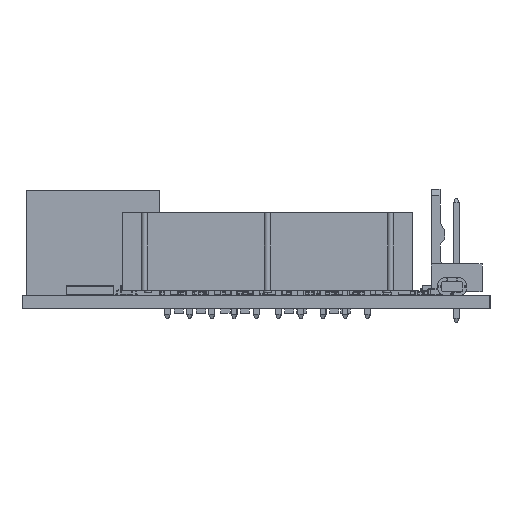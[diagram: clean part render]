
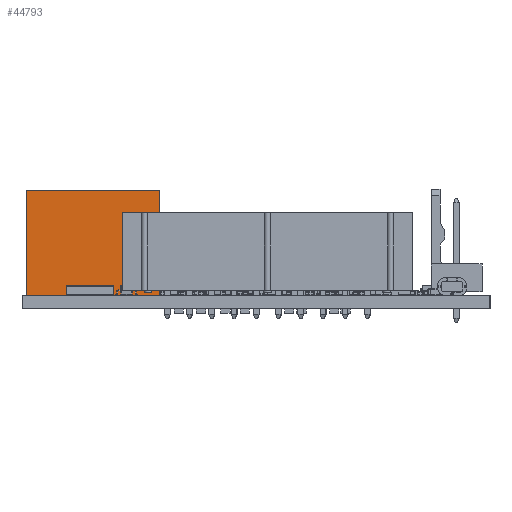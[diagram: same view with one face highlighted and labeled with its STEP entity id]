
A CAD part, left-side view. The second image highlights one B-rep face of the part: STEP entity #44793.
In plain terms, the highlighted planar face has unit normal (-1, 0, 0).
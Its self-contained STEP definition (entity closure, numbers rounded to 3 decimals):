
#44664 = EDGE_CURVE('',#44665,#44667,#44669,.T.);
#44665 = VERTEX_POINT('',#44666);
#44666 = CARTESIAN_POINT('',(-5.452,-7.6,0.));
#44667 = VERTEX_POINT('',#44668);
#44668 = CARTESIAN_POINT('',(-5.452,-7.6,12.));
#44669 = LINE('',#44670,#44671);
#44670 = CARTESIAN_POINT('',(-5.452,-7.6,0.));
#44671 = VECTOR('',#44672,1.);
#44672 = DIRECTION('',(0.,0.,1.));
#44768 = VERTEX_POINT('',#44769);
#44769 = CARTESIAN_POINT('',(-5.452,7.6,12.));
#44775 = EDGE_CURVE('',#44776,#44768,#44778,.T.);
#44776 = VERTEX_POINT('',#44777);
#44777 = CARTESIAN_POINT('',(-5.452,7.6,0.));
#44778 = LINE('',#44779,#44780);
#44779 = CARTESIAN_POINT('',(-5.452,7.6,0.));
#44780 = VECTOR('',#44781,1.);
#44781 = DIRECTION('',(0.,0.,1.));
#44793 = ADVANCED_FACE('',(#44794),#44810,.F.);
#44794 = FACE_BOUND('',#44795,.F.);
#44795 = EDGE_LOOP('',(#44796,#44797,#44803,#44804));
#44796 = ORIENTED_EDGE('',*,*,#44775,.T.);
#44797 = ORIENTED_EDGE('',*,*,#44798,.T.);
#44798 = EDGE_CURVE('',#44768,#44667,#44799,.T.);
#44799 = LINE('',#44800,#44801);
#44800 = CARTESIAN_POINT('',(-5.452,7.6,12.));
#44801 = VECTOR('',#44802,1.);
#44802 = DIRECTION('',(0.,-1.,0.));
#44803 = ORIENTED_EDGE('',*,*,#44664,.F.);
#44804 = ORIENTED_EDGE('',*,*,#44805,.F.);
#44805 = EDGE_CURVE('',#44776,#44665,#44806,.T.);
#44806 = LINE('',#44807,#44808);
#44807 = CARTESIAN_POINT('',(-5.452,7.6,0.));
#44808 = VECTOR('',#44809,1.);
#44809 = DIRECTION('',(0.,-1.,0.));
#44810 = PLANE('',#44811);
#44811 = AXIS2_PLACEMENT_3D('',#44812,#44813,#44814);
#44812 = CARTESIAN_POINT('',(-5.452,7.6,0.));
#44813 = DIRECTION('',(1.,0.,0.));
#44814 = DIRECTION('',(0.,-1.,0.));
